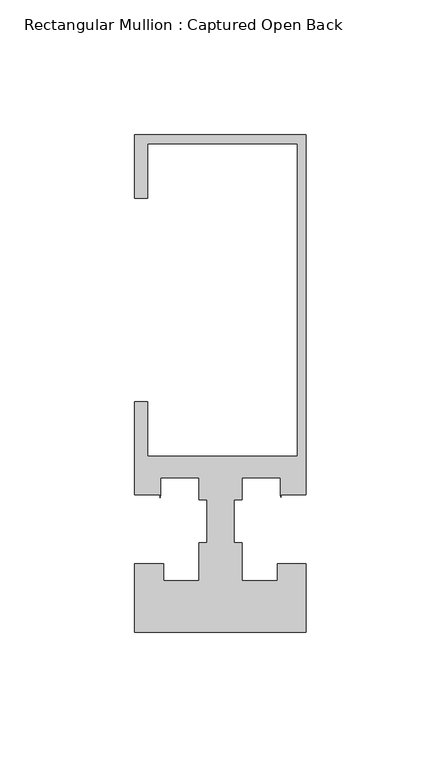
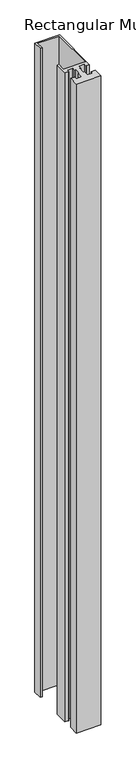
"""IFC4 building model written with IfcOpenShell, lengths in millimetres: member geometry, Rectangular Mullion : Captured Open Back."""

from ifc_helpers import new_model, si_unit, frame, origin, place, context, project, spatial, polyline, outline, extrude, source, transform, mapped, element, save


def rectangular_mullion_captured_open_back_16a1f242(model_context):
    return source(origin(), model_context, "Body", "SweptSolid", [
        extrude(outline(polyline([(-63.5205663, 114.3), (0.0, 114.3), (0.0, -18.9488461), (-9.3386849, -18.9488461), (-9.3386849, -19.8905485), (-9.5249909, -18.948961), (-9.5249909, -12.7), (-23.8124458, -12.7), (-23.8124458, -20.8793999), (-26.7860526, -20.8793999), (-26.7860526, -36.6491027), (-23.8124461, -36.6491027), (-23.8124461, -50.8001709), (-10.7229117, -50.8001709), (-10.7229117, -44.4247364), (-0.0205663, -44.4247364), (-0.0205663, -69.8502416), (-63.5205663, -69.8502416), (-63.5205663, -44.4245655), (-52.8345479, -44.4245655), (-52.8345479, -50.8001709), (-39.6874472, -50.8001709), (-39.6874472, -36.6491027), (-36.738785, -36.6491027), (-36.738785, -20.8793999), (-39.7916658, -20.8793999), (-39.7916658, -12.7), (-53.9751125, -12.7), (-53.9751125, -18.933673), (-54.1413824, -20.0839351), (-54.1413824, -18.933673), (-63.5205663, -18.933673), (-63.5205663, 15.5833982), (-58.7374998, 15.5833982), (-58.7374998, -4.7625735), (-3.175617, -4.7625735), (-3.175617, 111.1250145), (-58.7374998, 111.1250145), (-58.7374998, 90.8721193), (-63.5205663, 90.8721193), (-63.5205663, 114.3)])), frame((0.0, 0.0, -1765.3), z_axis=(0.0, 0.0, 1.0), x_axis=(1.0, 0.0, 0.0)), (0.0, 0.0, 1.0), 1765.3),
    ])


if __name__ == "__main__":
    model = new_model("IFC4")
    model_context = context("Model", 3, world=origin())
    ifc_project = project(units=[si_unit("LENGTHUNIT", "METRE", prefix="MILLI")], contexts=[model_context])
    site = spatial("IfcSite", under=ifc_project)
    building = spatial("IfcBuilding", under=site)
    placement = place(None, origin())
    rectangular_mullion_captured_open_back_shape = rectangular_mullion_captured_open_back_16a1f242(model_context)
    element("IfcMember", 1, ObjectType="Rectangular Mullion : Captured Open Back", at=placement, inside=building, context=model_context, shape_type="MappedRepresentation", body=[
        mapped(rectangular_mullion_captured_open_back_shape, transform((0.0, 0.0, 0.0), x_axis=(1.0, 0.0, 0.0), y_axis=(0.0, 1.0, 0.0), z_axis=(0.0, 0.0, 1.0))),
    ])
    save(model, "model.ifc")
